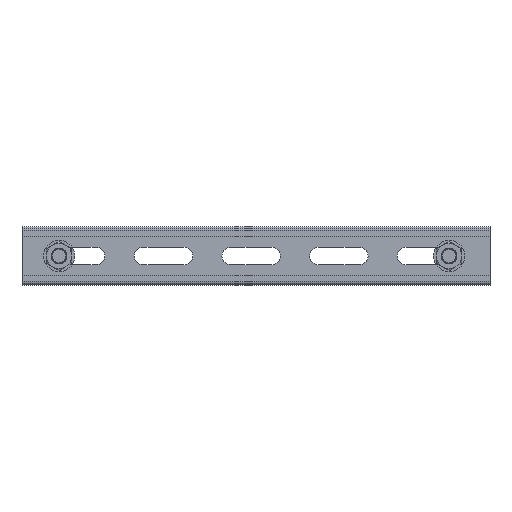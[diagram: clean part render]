
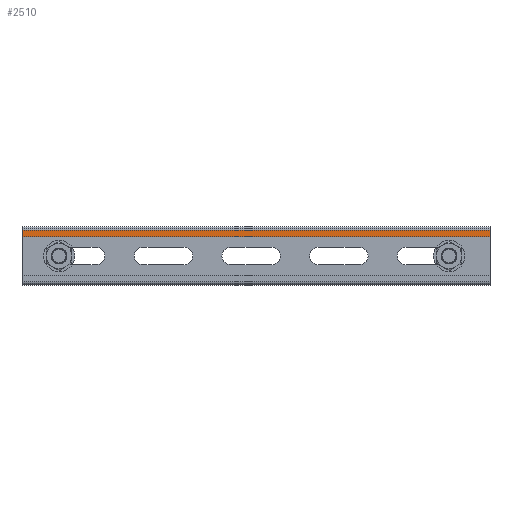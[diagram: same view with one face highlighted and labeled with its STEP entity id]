
A CAD part, front view. The second image highlights one B-rep face of the part: STEP entity #2510.
In plain terms, the highlighted planar face has unit normal (0, -1, 0).
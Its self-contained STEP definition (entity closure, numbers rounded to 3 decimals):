
#21 = DIRECTION ( 'NONE',  ( 0., 0., 1. ) ) ;
#73 = LINE ( 'NONE', #2269, #2521 ) ;
#167 = DIRECTION ( 'NONE',  ( 0., 0., 1. ) ) ;
#183 = VECTOR ( 'NONE', #1036, 1000. ) ;
#390 = AXIS2_PLACEMENT_3D ( 'NONE', #4502, #549, #4654 ) ;
#549 = DIRECTION ( 'NONE',  ( 0., -1., 0. ) ) ;
#633 = VECTOR ( 'NONE', #21, 1000. ) ;
#985 = CARTESIAN_POINT ( 'NONE',  ( 5., 0., -240. ) ) ;
#1036 = DIRECTION ( 'NONE',  ( 1., 0., 0. ) ) ;
#1117 = LINE ( 'NONE', #3098, #4894 ) ;
#1121 = VERTEX_POINT ( 'NONE', #4670 ) ;
#1517 = EDGE_CURVE ( 'NONE', #3119, #4356, #1947, .T. ) ;
#1548 = FACE_OUTER_BOUND ( 'NONE', #4520, .T. ) ;
#1947 = LINE ( 'NONE', #985, #633 ) ;
#2031 = CARTESIAN_POINT ( 'NONE',  ( 0., 0., -240. ) ) ;
#2269 = CARTESIAN_POINT ( 'NONE',  ( 0., 0., 0. ) ) ;
#2425 = PLANE ( 'NONE',  #390 ) ;
#2510 = ADVANCED_FACE ( 'NONE', ( #1548 ), #2425, .T. ) ;
#2521 = VECTOR ( 'NONE', #2755, 1000. ) ;
#2755 = DIRECTION ( 'NONE',  ( 1., 0., 0. ) ) ;
#3098 = CARTESIAN_POINT ( 'NONE',  ( 1.8, 0., -240. ) ) ;
#3119 = VERTEX_POINT ( 'NONE', #6350 ) ;
#3199 = ORIENTED_EDGE ( 'NONE', *, *, #5151, .F. ) ;
#3600 = EDGE_CURVE ( 'NONE', #5477, #4356, #73, .T. ) ;
#3940 = CARTESIAN_POINT ( 'NONE',  ( 5., 0., 0. ) ) ;
#4356 = VERTEX_POINT ( 'NONE', #3940 ) ;
#4502 = CARTESIAN_POINT ( 'NONE',  ( 0., 0., -240. ) ) ;
#4520 = EDGE_LOOP ( 'NONE', ( #5643, #3199, #5395, #5586 ) ) ;
#4654 = DIRECTION ( 'NONE',  ( 0., 0., -1. ) ) ;
#4670 = CARTESIAN_POINT ( 'NONE',  ( 1.8, 0., -240. ) ) ;
#4894 = VECTOR ( 'NONE', #167, 1000. ) ;
#5151 = EDGE_CURVE ( 'NONE', #1121, #5477, #1117, .T. ) ;
#5395 = ORIENTED_EDGE ( 'NONE', *, *, #5719, .T. ) ;
#5463 = LINE ( 'NONE', #2031, #183 ) ;
#5477 = VERTEX_POINT ( 'NONE', #6321 ) ;
#5586 = ORIENTED_EDGE ( 'NONE', *, *, #1517, .T. ) ;
#5643 = ORIENTED_EDGE ( 'NONE', *, *, #3600, .F. ) ;
#5719 = EDGE_CURVE ( 'NONE', #1121, #3119, #5463, .T. ) ;
#6321 = CARTESIAN_POINT ( 'NONE',  ( 1.8, 0., 0. ) ) ;
#6350 = CARTESIAN_POINT ( 'NONE',  ( 5., 0., -240. ) ) ;
